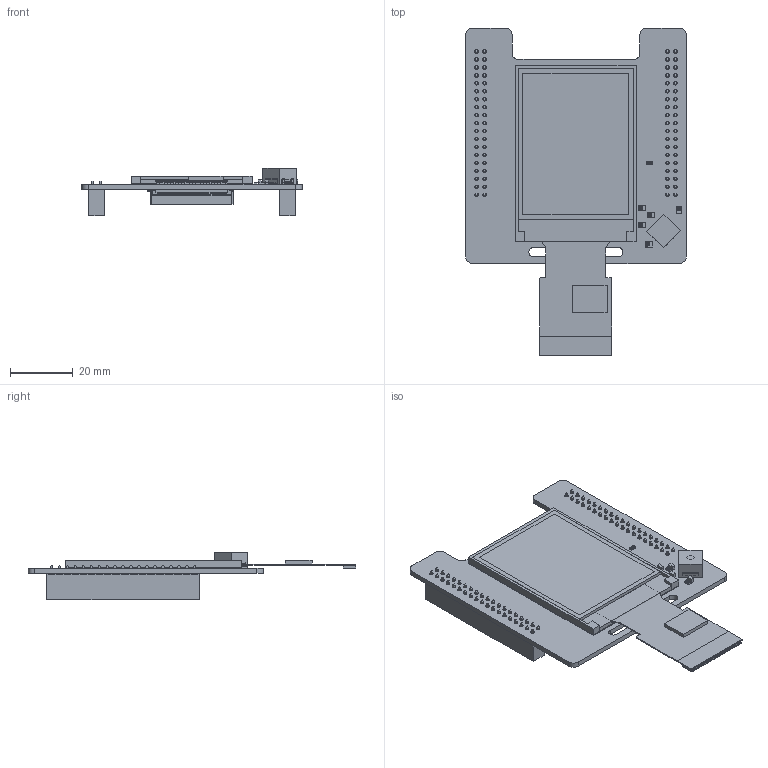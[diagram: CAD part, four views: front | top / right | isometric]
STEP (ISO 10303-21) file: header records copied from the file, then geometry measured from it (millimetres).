
FILE_DESCRIPTION(('Open CASCADE Model'),'2;1');
FILE_NAME('Open CASCADE Shape Model','2020-02-03T08:11:31',('Author'),( 'Open CASCADE'),'Open CASCADE STEP processor 6.8','Open CASCADE 6.8' ,'Unknown');
FILE_SCHEMA(('AUTOMOTIVE_DESIGN { 1 0 10303 214 1 1 1 1 }'));
Length unit declared in the file: millimetre
Products named in the file (86): PCB; Board; Open CASCADE STEP translator 6.8 1.1.1; CN1; FH12-45S-0.5SH; FH12-45S-0.5SH_\X\8A\ÜH\X\97\Ü*; 6153929968; Extruded; U1; 6153929168; 6153928928; 6153584480; 6153583920; 6153583520; Cylinder; 6153581440; LCD1; 6153932688; 6153943248; 6153942768; 6153942368; 6153942048; 6153941728; 6153941488; 6153941248; 6153941008; 6153940688; 6153933408; CN3; SSW-119-01-G-D; _T1SSW-119-01-G-D; _P2SSW-119-01-G-D; 6153930608; B1; SWI_XIEJIA_MT-008A_6P; 6153943408; C1; C0603; 6153943888; C2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
Assembly tree (182 placements, depth 4):
  PCB
    Board
      Open CASCADE STEP translator 6.8 1.1.1
    CN1
      FH12-45S-0.5SH
        FH12-45S-0.5SH_\X\8A\ÜH\X\97\Ü*
      6153929968
        Extruded
    U1
      6153929168
        Extruded
      6153928928  x8
        Extruded
      6153584480  x8
        Extruded
      6153583920  x4
        Extruded
      6153583520
        Cylinder
      6153581440  x4
        Extruded
    LCD1
      6153932688
        Extruded
      6153943248  x2
        Cylinder
      6153942768
        Extruded
      6153942368
      6153942048
        Extruded
      6153941728
        Extruded
      6153941488
        Extruded
      6153941248
        Extruded
      6153941008
        Extruded
      6153940688  x45
        Extruded
      6153933408
        Extruded
    CN3
      SSW-119-01-G-D
        _T1SSW-119-01-G-D
        _P2SSW-119-01-G-D
      6153930608
        Extruded
    B1
      SWI_XIEJIA_MT-008A_6P
      6153943408
        Extruded
    C1
      C0603
      6153943888
        Extruded
    C2
      C0603
      6154322384
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Bounding box: 70.36 x 104.69 x 15.31 mm (x, y, z)
Volume: 22452.6 mm3; surface area: 38557.2 mm2
Topology: 163 solids, 163 shells, 4770 faces, 12560 edges, 8204 vertices
Faces by surface type: plane 3841, cylinder 539, bspline 384, cone 6
Full cylindrical faces by diameter (mm): 0.5 x1, 0.8 x1, 1 x2, 1.1 x77, 1.2 x2
Entity records: 96126 total; most frequent: CARTESIAN_POINT 18338, ORIENTED_EDGE 15000, DIRECTION 13946, EDGE_CURVE 7500, LINE 6570, VECTOR 6570, VERTEX_POINT 4924, AXIS2_PLACEMENT_3D 3688
